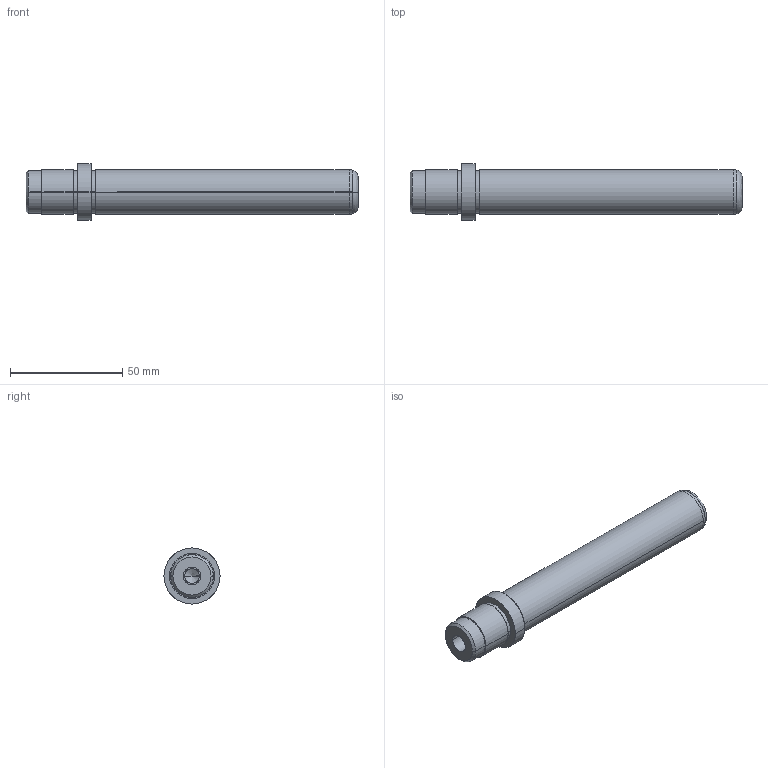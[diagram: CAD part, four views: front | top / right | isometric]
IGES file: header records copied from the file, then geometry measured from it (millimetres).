
Start section: SolidWorks IGES FILE using analytic representation for surfaces
Global section: file name: D:\zzzzz\Delta\D06\20\D06 - 20x125x23.IGS; native system: SolidWorks 2004 by SolidWorks Corporation; preprocessor: Version 5.3; author: Hkn; date: 080327.150309; units: millimetre
Bounding box: 148 x 25 x 25 mm (x, y, z)
Surface area: 11521 mm2 (no closed solid volume)
Topology: 0 solids, 0 shells, 39 faces, 696 edges, 692 vertices
Faces by surface type: revolution 28, bspline 11
